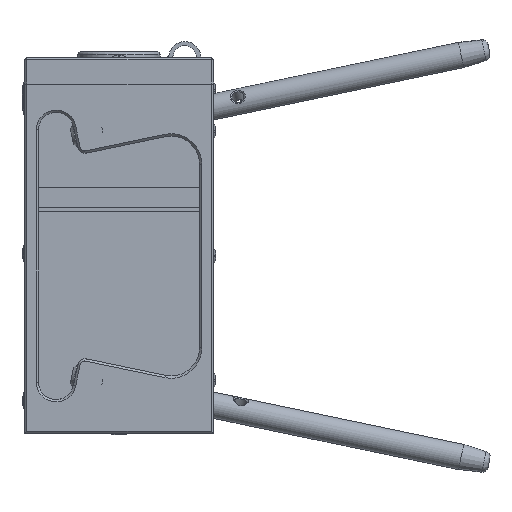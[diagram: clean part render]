
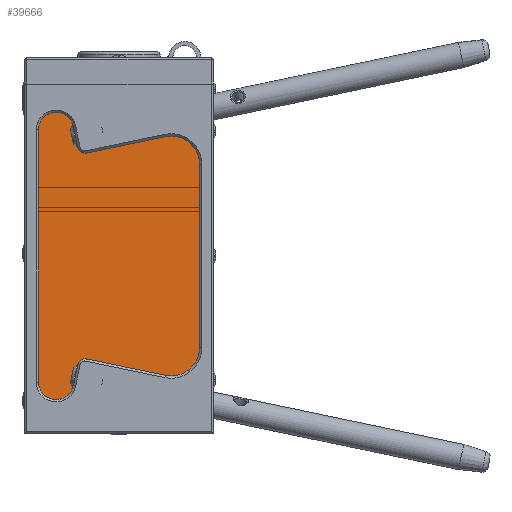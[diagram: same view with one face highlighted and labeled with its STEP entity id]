
A CAD part, left-side view. The second image highlights one B-rep face of the part: STEP entity #39666.
In plain terms, the highlighted planar face has unit normal (-1, 0, 0) as drawn and (0, 0, -1) by its records, which use the part's own axes.
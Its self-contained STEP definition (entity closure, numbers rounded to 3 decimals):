
#4942=PLANE('',#42184);
#6769=FACE_OUTER_BOUND('',#9135,.T.);
#9135=EDGE_LOOP('',(#34857,#34858,#34859,#34860,#34861,#34862,#34863,#34864,
#34865,#34866,#34867,#34868));
#12437=LINE('',#67300,#15765);
#12441=LINE('',#67313,#15769);
#12444=LINE('',#67321,#15772);
#12448=LINE('',#67332,#15776);
#12450=LINE('',#67338,#15778);
#12451=LINE('',#67341,#15779);
#15765=VECTOR('',#48568,10.);
#15769=VECTOR('',#48582,10.);
#15772=VECTOR('',#48591,10.);
#15776=VECTOR('',#48603,10.);
#15778=VECTOR('',#48611,10.);
#15779=VECTOR('',#48614,10.);
#16927=CIRCLE('',#42162,10.);
#16928=CIRCLE('',#42165,2.5);
#16931=CIRCLE('',#42170,6.2);
#16932=CIRCLE('',#42174,2.5);
#16933=CIRCLE('',#42177,10.);
#16936=CIRCLE('',#42183,6.2);
#20245=VERTEX_POINT('',#67292);
#20246=VERTEX_POINT('',#67294);
#20247=VERTEX_POINT('',#67298);
#20248=VERTEX_POINT('',#67302);
#20251=VERTEX_POINT('',#67311);
#20252=VERTEX_POINT('',#67315);
#20253=VERTEX_POINT('',#67319);
#20254=VERTEX_POINT('',#67324);
#20255=VERTEX_POINT('',#67326);
#20256=VERTEX_POINT('',#67330);
#20257=VERTEX_POINT('',#67334);
#20258=VERTEX_POINT('',#67340);
#25245=EDGE_CURVE('',#20246,#20245,#16927,.T.);
#25248=EDGE_CURVE('',#20247,#20245,#12437,.T.);
#25250=EDGE_CURVE('',#20248,#20247,#16928,.F.);
#25255=EDGE_CURVE('',#20251,#20248,#12441,.T.);
#25257=EDGE_CURVE('',#20252,#20251,#16931,.T.);
#25259=EDGE_CURVE('',#20253,#20252,#12444,.T.);
#25261=EDGE_CURVE('',#20254,#20255,#16932,.F.);
#25264=EDGE_CURVE('',#20256,#20254,#12448,.T.);
#25266=EDGE_CURVE('',#20256,#20257,#16933,.T.);
#25267=EDGE_CURVE('',#20246,#20257,#12450,.T.);
#25268=EDGE_CURVE('',#20255,#20258,#12451,.T.);
#25273=EDGE_CURVE('',#20258,#20253,#16936,.T.);
#34857=ORIENTED_EDGE('',*,*,#25266,.T.);
#34858=ORIENTED_EDGE('',*,*,#25267,.F.);
#34859=ORIENTED_EDGE('',*,*,#25245,.T.);
#34860=ORIENTED_EDGE('',*,*,#25248,.F.);
#34861=ORIENTED_EDGE('',*,*,#25250,.F.);
#34862=ORIENTED_EDGE('',*,*,#25255,.F.);
#34863=ORIENTED_EDGE('',*,*,#25257,.F.);
#34864=ORIENTED_EDGE('',*,*,#25259,.F.);
#34865=ORIENTED_EDGE('',*,*,#25273,.F.);
#34866=ORIENTED_EDGE('',*,*,#25268,.F.);
#34867=ORIENTED_EDGE('',*,*,#25261,.F.);
#34868=ORIENTED_EDGE('',*,*,#25264,.F.);
#39666=ADVANCED_FACE('',(#6769),#4942,.F.);
#42162=AXIS2_PLACEMENT_3D('',#67295,#48562,#48563);
#42165=AXIS2_PLACEMENT_3D('',#67304,#48572,#48573);
#42170=AXIS2_PLACEMENT_3D('',#67317,#48586,#48587);
#42174=AXIS2_PLACEMENT_3D('',#67327,#48597,#48598);
#42177=AXIS2_PLACEMENT_3D('',#67336,#48607,#48608);
#42183=AXIS2_PLACEMENT_3D('',#67349,#48623,#48624);
#42184=AXIS2_PLACEMENT_3D('',#67350,#48625,#48626);
#48562=DIRECTION('center_axis',(0.,0.,-1.));
#48563=DIRECTION('ref_axis',(-0.631,0.776,0.));
#48568=DIRECTION('',(-0.979,0.205,0.));
#48572=DIRECTION('center_axis',(0.,0.,1.));
#48573=DIRECTION('ref_axis',(0.547,-0.837,0.));
#48582=DIRECTION('',(-0.205,-0.979,0.));
#48586=DIRECTION('center_axis',(0.,0.,1.));
#48587=DIRECTION('ref_axis',(-0.979,0.205,0.));
#48591=DIRECTION('',(0.,1.,0.));
#48597=DIRECTION('center_axis',(0.,0.,1.));
#48598=DIRECTION('ref_axis',(0.547,0.837,0.));
#48603=DIRECTION('',(0.979,0.205,0.));
#48607=DIRECTION('center_axis',(0.,0.,-1.));
#48608=DIRECTION('ref_axis',(-0.631,-0.776,0.));
#48611=DIRECTION('',(0.,-1.,0.));
#48614=DIRECTION('',(0.205,-0.979,0.));
#48623=DIRECTION('center_axis',(0.,0.,1.));
#48624=DIRECTION('ref_axis',(1.,0.,0.));
#48625=DIRECTION('center_axis',(0.,0.,1.));
#48626=DIRECTION('ref_axis',(1.,0.,0.));
#67292=CARTESIAN_POINT('',(-16.303,42.029,10.7));
#67294=CARTESIAN_POINT('',(-28.35,32.241,10.7));
#67295=CARTESIAN_POINT('Origin',(-18.35,32.241,10.7));
#67298=CARTESIAN_POINT('',(11.514,36.211,10.7));
#67300=CARTESIAN_POINT('',(-28.35,44.549,10.7));
#67302=CARTESIAN_POINT('',(14.473,38.146,10.7));
#67304=CARTESIAN_POINT('Origin',(12.026,38.658,10.7));
#67311=CARTESIAN_POINT('',(16.04,45.642,10.7));
#67313=CARTESIAN_POINT('',(13.961,35.699,10.7));
#67315=CARTESIAN_POINT('',(28.309,44.372,10.7));
#67317=CARTESIAN_POINT('Origin',(22.109,44.372,10.7));
#67319=CARTESIAN_POINT('',(28.309,-44.372,10.7));
#67321=CARTESIAN_POINT('',(28.309,44.372,10.7));
#67324=CARTESIAN_POINT('',(11.514,-36.211,10.7));
#67326=CARTESIAN_POINT('',(14.473,-38.146,10.7));
#67327=CARTESIAN_POINT('Origin',(12.026,-38.658,10.7));
#67330=CARTESIAN_POINT('',(-16.303,-42.029,10.7));
#67332=CARTESIAN_POINT('',(28.439,-32.671,10.7));
#67334=CARTESIAN_POINT('',(-28.35,-32.241,10.7));
#67336=CARTESIAN_POINT('Origin',(-18.35,-32.241,10.7));
#67338=CARTESIAN_POINT('',(-28.35,-44.549,10.7));
#67340=CARTESIAN_POINT('',(16.04,-45.642,10.7));
#67341=CARTESIAN_POINT('',(16.04,-45.642,10.7));
#67349=CARTESIAN_POINT('Origin',(22.109,-44.372,10.7));
#67350=CARTESIAN_POINT('Origin',(0.912,0.,
10.7));
